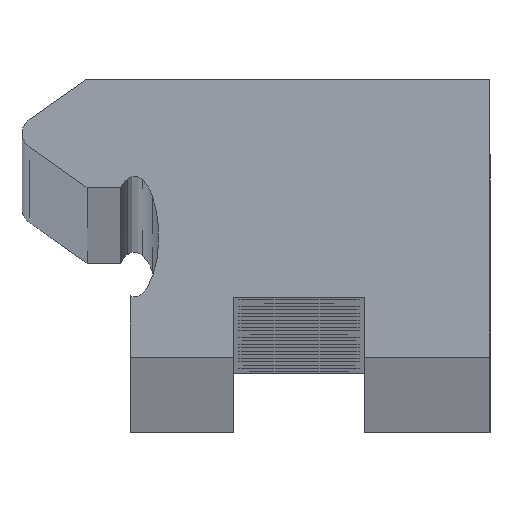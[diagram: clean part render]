
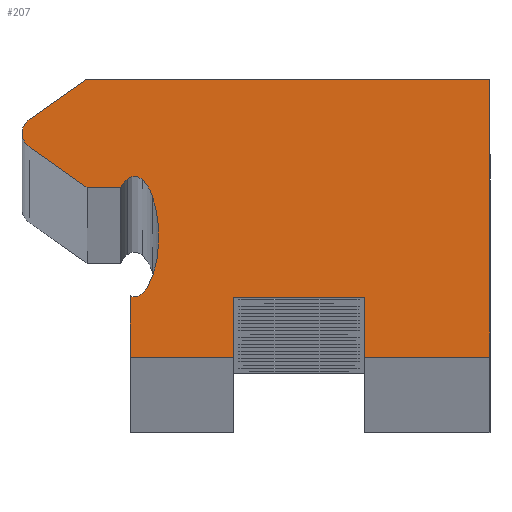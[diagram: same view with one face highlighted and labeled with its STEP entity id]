
A CAD part, top view. The second image highlights one B-rep face of the part: STEP entity #207.
In plain terms, the highlighted planar face has unit normal (0, 0, 1).
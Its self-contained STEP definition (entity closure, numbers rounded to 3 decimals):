
#207=ADVANCED_FACE('',(#539),#540,.F.);
#539=FACE_OUTER_BOUND('',#871,.T.);
#540=PLANE('',#872);
#871=EDGE_LOOP('',(#1902,#1903,#1904,#1905,#1906,#1907,#1908,#1909,#1910,#1911,#1912,#1913,#1914,#1915,#1916,#1917,#1918,#1919,#1920,#1921,#1922));
#872=AXIS2_PLACEMENT_3D('',#1923,#1924,#1925);
#1902=ORIENTED_EDGE('',*,*,#2252,.F.);
#1903=ORIENTED_EDGE('',*,*,#2200,.F.);
#1904=ORIENTED_EDGE('',*,*,#2204,.F.);
#1905=ORIENTED_EDGE('',*,*,#2207,.F.);
#1906=ORIENTED_EDGE('',*,*,#2210,.F.);
#1907=ORIENTED_EDGE('',*,*,#2213,.F.);
#1908=ORIENTED_EDGE('',*,*,#2216,.F.);
#1909=ORIENTED_EDGE('',*,*,#2219,.F.);
#1910=ORIENTED_EDGE('',*,*,#2221,.F.);
#1911=ORIENTED_EDGE('',*,*,#1931,.F.);
#1912=ORIENTED_EDGE('',*,*,#2224,.F.);
#1913=ORIENTED_EDGE('',*,*,#2227,.F.);
#1914=ORIENTED_EDGE('',*,*,#2230,.F.);
#1915=ORIENTED_EDGE('',*,*,#2233,.T.);
#1916=ORIENTED_EDGE('',*,*,#2236,.T.);
#1917=ORIENTED_EDGE('',*,*,#2239,.T.);
#1918=ORIENTED_EDGE('',*,*,#2240,.T.);
#1919=ORIENTED_EDGE('',*,*,#1929,.T.);
#1920=ORIENTED_EDGE('',*,*,#2244,.T.);
#1921=ORIENTED_EDGE('',*,*,#2247,.T.);
#1922=ORIENTED_EDGE('',*,*,#2250,.T.);
#1923=CARTESIAN_POINT('',(-0.901,6.552,1976.0));
#1924=DIRECTION('',(0.,0.0,-1.0));
#1925=DIRECTION('',(-1.0,0.0,0.));
#1929=EDGE_CURVE('',#2254,#2258,#2260,.T.);
#1931=EDGE_CURVE('',#2261,#2264,#2265,.T.);
#2200=EDGE_CURVE('',#2712,#2714,#2715,.T.);
#2204=EDGE_CURVE('',#2719,#2712,#2721,.T.);
#2207=EDGE_CURVE('',#2724,#2719,#2726,.T.);
#2210=EDGE_CURVE('',#2729,#2724,#2731,.T.);
#2213=EDGE_CURVE('',#2734,#2729,#2736,.T.);
#2216=EDGE_CURVE('',#2739,#2734,#2741,.T.);
#2219=EDGE_CURVE('',#2744,#2739,#2746,.T.);
#2221=EDGE_CURVE('',#2264,#2744,#2748,.T.);
#2224=EDGE_CURVE('',#2751,#2261,#2753,.T.);
#2227=EDGE_CURVE('',#2756,#2751,#2758,.T.);
#2230=EDGE_CURVE('',#2761,#2756,#2763,.T.);
#2233=EDGE_CURVE('',#2761,#2766,#2768,.T.);
#2236=EDGE_CURVE('',#2766,#2771,#2773,.T.);
#2239=EDGE_CURVE('',#2771,#2776,#2778,.T.);
#2240=EDGE_CURVE('',#2776,#2254,#2779,.T.);
#2244=EDGE_CURVE('',#2258,#2783,#2785,.T.);
#2247=EDGE_CURVE('',#2783,#2788,#2790,.T.);
#2250=EDGE_CURVE('',#2788,#2793,#2795,.T.);
#2252=EDGE_CURVE('',#2714,#2793,#2797,.T.);
#2254=VERTEX_POINT('',#2799);
#2258=VERTEX_POINT('',#2804);
#2260=CIRCLE('',#2807,5.952);
#2261=VERTEX_POINT('',#2808);
#2264=VERTEX_POINT('',#2812);
#2265=CIRCLE('',#2813,0.76);
#2712=VERTEX_POINT('',#3350);
#2714=VERTEX_POINT('',#3353);
#2715=LINE('',#3354,#3355);
#2719=VERTEX_POINT('',#3361);
#2721=LINE('',#3364,#3365);
#2724=VERTEX_POINT('',#3369);
#2726=LINE('',#3372,#3373);
#2729=VERTEX_POINT('',#3377);
#2731=LINE('',#3380,#3381);
#2734=VERTEX_POINT('',#3385);
#2736=LINE('',#3388,#3389);
#2739=VERTEX_POINT('',#3393);
#2741=LINE('',#3396,#3397);
#2744=VERTEX_POINT('',#3401);
#2746=LINE('',#3404,#3405);
#2748=LINE('',#3408,#3409);
#2751=VERTEX_POINT('',#3412);
#2753=CIRCLE('',#3415,0.76);
#2756=VERTEX_POINT('',#3419);
#2758=LINE('',#3422,#3423);
#2761=VERTEX_POINT('',#3427);
#2763=LINE('',#3430,#3431);
#2766=VERTEX_POINT('',#3434);
#2768=CIRCLE('',#3437,1.337);
#2771=VERTEX_POINT('',#3440);
#2773=CIRCLE('',#3443,0.5);
#2776=VERTEX_POINT('',#3446);
#2778=CIRCLE('',#3449,1.772);
#2779=CIRCLE('',#3450,5.952);
#2783=VERTEX_POINT('',#3454);
#2785=CIRCLE('',#3457,4.357);
#2788=VERTEX_POINT('',#3460);
#2790=CIRCLE('',#3463,0.985);
#2793=VERTEX_POINT('',#3466);
#2795=CIRCLE('',#3469,0.46);
#2797=LINE('',#3472,#3473);
#2799=CARTESIAN_POINT('',(-6.397,5.512,1976.0));
#2804=CARTESIAN_POINT('',(-6.408,5.149,1976.0));
#2807=AXIS2_PLACEMENT_3D('',#3479,#3480,#3481);
#2808=CARTESIAN_POINT('',(-12.625,10.2,1976.0));
#2812=CARTESIAN_POINT('',(-12.301,10.823,1976.0));
#2813=AXIS2_PLACEMENT_3D('',#3483,#3484,#3485);
#3350=CARTESIAN_POINT('',(-3.,0.0,1976.0));
#3353=CARTESIAN_POINT('',(-7.7,0.0,1976.0));
#3354=CARTESIAN_POINT('',(-3.,0.0,1976.0));
#3355=VECTOR('',#4108,1.0);
#3361=CARTESIAN_POINT('',(-3.,2.7,1976.0));
#3364=CARTESIAN_POINT('',(-3.,2.7,1976.0));
#3365=VECTOR('',#4112,1.0);
#3369=CARTESIAN_POINT('',(3.,2.7,1976.0));
#3372=CARTESIAN_POINT('',(3.,2.7,1976.0));
#3373=VECTOR('',#4115,1.0);
#3377=CARTESIAN_POINT('',(3.,0.0,1976.0));
#3380=CARTESIAN_POINT('',(3.,0.0,1976.0));
#3381=VECTOR('',#4118,1.0);
#3385=CARTESIAN_POINT('',(8.7,0.0,1976.0));
#3388=CARTESIAN_POINT('',(8.7,0.0,1976.0));
#3389=VECTOR('',#4121,1.0);
#3393=CARTESIAN_POINT('',(8.7,12.66,1976.0));
#3396=CARTESIAN_POINT('',(8.7,12.66,1976.0));
#3397=VECTOR('',#4124,1.0);
#3401=CARTESIAN_POINT('',(-9.677,12.66,1976.0));
#3404=CARTESIAN_POINT('',(-9.677,12.66,1976.0));
#3405=VECTOR('',#4127,1.0);
#3408=CARTESIAN_POINT('',(-12.301,10.823,1976.0));
#3409=VECTOR('',#4129,1.0);
#3412=CARTESIAN_POINT('',(-12.301,9.577,1976.0));
#3415=AXIS2_PLACEMENT_3D('',#4134,#4135,#4136);
#3419=CARTESIAN_POINT('',(-9.662,7.73,1976.0));
#3422=CARTESIAN_POINT('',(-9.662,7.73,1976.0));
#3423=VECTOR('',#4139,1.0);
#3427=CARTESIAN_POINT('',(-8.138,7.73,1976.0));
#3430=CARTESIAN_POINT('',(-8.138,7.73,1976.0));
#3431=VECTOR('',#4142,1.0);
#3434=CARTESIAN_POINT('',(-7.838,8.107,1976.0));
#3437=AXIS2_PLACEMENT_3D('',#4147,#4148,#4149);
#3440=CARTESIAN_POINT('',(-7.141,8.089,1976.0));
#3443=AXIS2_PLACEMENT_3D('',#4154,#4155,#4156);
#3446=CARTESIAN_POINT('',(-6.677,7.315,1976.0));
#3449=AXIS2_PLACEMENT_3D('',#4161,#4162,#4163);
#3450=AXIS2_PLACEMENT_3D('',#4164,#4165,#4166);
#3454=CARTESIAN_POINT('',(-6.937,3.128,1976.0));
#3457=AXIS2_PLACEMENT_3D('',#4174,#4175,#4176);
#3460=CARTESIAN_POINT('',(-7.291,2.79,1976.0));
#3463=AXIS2_PLACEMENT_3D('',#4181,#4182,#4183);
#3466=CARTESIAN_POINT('',(-7.7,2.786,1976.0));
#3469=AXIS2_PLACEMENT_3D('',#4188,#4189,#4190);
#3472=CARTESIAN_POINT('',(-7.7,0.0,1976.0));
#3473=VECTOR('',#4192,1.0);
#3479=CARTESIAN_POINT('',(-12.349,5.512,1976.0));
#3480=DIRECTION('',(0.,0.0,-1.0));
#3481=DIRECTION('',(-1.0,0.0,0.));
#3483=CARTESIAN_POINT('',(-11.865,10.2,1976.0));
#3484=DIRECTION('',(0.,0.0,-1.0));
#3485=DIRECTION('',(-1.0,0.0,0.));
#4108=DIRECTION('',(-1.0,0.0,0.));
#4112=DIRECTION('',(0.0,-1.0,-0.0));
#4115=DIRECTION('',(-1.0,0.0,0.));
#4118=DIRECTION('',(0.0,1.0,0.0));
#4121=DIRECTION('',(-1.0,0.0,0.));
#4124=DIRECTION('',(0.0,-1.0,-0.0));
#4127=DIRECTION('',(1.0,0.0,0.));
#4129=DIRECTION('',(0.819,0.574,0.));
#4134=CARTESIAN_POINT('',(-11.865,10.2,1976.0));
#4135=DIRECTION('',(0.,0.0,-1.0));
#4136=DIRECTION('',(-1.0,0.0,0.));
#4139=DIRECTION('',(-0.819,0.574,0.));
#4142=DIRECTION('',(-1.0,0.0,0.));
#4147=CARTESIAN_POINT('',(-6.959,7.099,1976.0));
#4148=DIRECTION('',(0.,0.0,-1.0));
#4149=DIRECTION('',(-1.0,0.0,0.));
#4154=CARTESIAN_POINT('',(-7.498,7.74,1976.0));
#4155=DIRECTION('',(0.,0.0,-1.0));
#4156=DIRECTION('',(-1.0,0.0,0.));
#4161=CARTESIAN_POINT('',(-8.379,6.822,1976.0));
#4162=DIRECTION('',(0.,0.0,-1.0));
#4163=DIRECTION('',(-1.0,0.0,0.));
#4164=CARTESIAN_POINT('',(-12.349,5.512,1976.0));
#4165=DIRECTION('',(0.,0.0,-1.0));
#4166=DIRECTION('',(-1.0,0.0,0.));
#4174=CARTESIAN_POINT('',(-10.766,5.208,1976.0));
#4175=DIRECTION('',(0.,0.0,-1.0));
#4176=DIRECTION('',(-1.0,0.0,0.));
#4181=CARTESIAN_POINT('',(-7.772,3.65,1976.0));
#4182=DIRECTION('',(0.,0.0,-1.0));
#4183=DIRECTION('',(-1.0,0.0,0.));
#4188=CARTESIAN_POINT('',(-7.5,3.2,1976.0));
#4189=DIRECTION('',(0.,0.0,-1.0));
#4190=DIRECTION('',(-1.0,0.0,0.));
#4192=DIRECTION('',(0.0,1.0,0.0));
